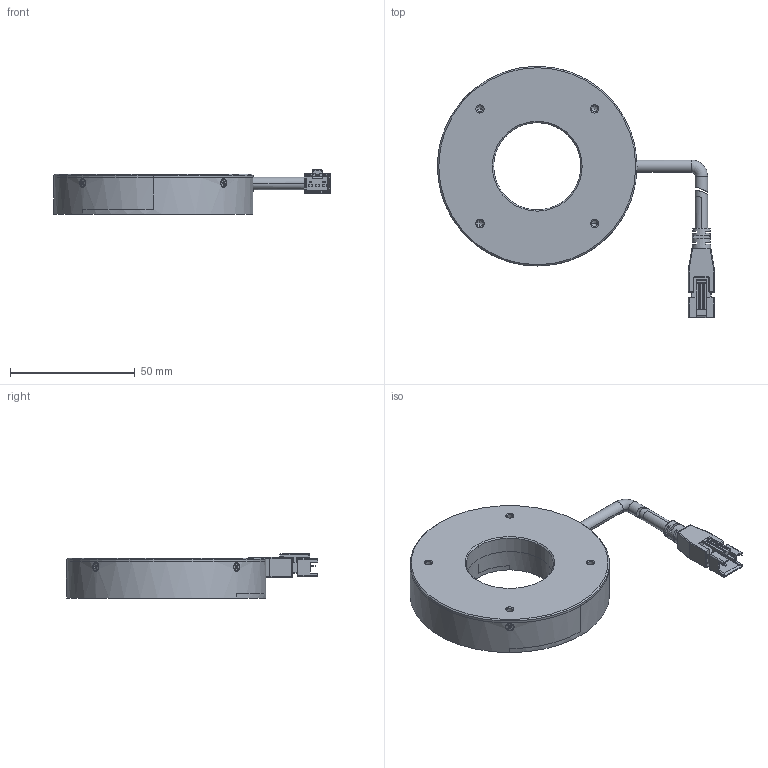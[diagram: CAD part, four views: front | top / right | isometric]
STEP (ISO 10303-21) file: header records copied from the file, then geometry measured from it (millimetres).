
FILE_DESCRIPTION((''),'2;1');
FILE_NAME('MV-LRDS-80-90-X_ASM','2023-09-15T12:01:02',('qiaoxuan5'),(''),'CREO PARAMETRIC BY PTC INC, 2020044','CREO PARAMETRIC BY PTC INC, 2020044','');
FILE_SCHEMA(('CONFIG_CONTROL_DESIGN','SHAPE_APPEARANCE_LAYERS_GROUPS'));
Length unit declared in the file: millimetre
Products named in the file (1): MV-LRDS-80-90-X_ASM
Bounding box: 111.05 x 100.66 x 17.7 mm (x, y, z)
Volume: 45287.4 mm3; surface area: 27716.4 mm2
Topology: 2 solids, 7 shells, 545 faces, 1388 edges, 868 vertices
Faces by surface type: plane 289, cylinder 162, cone 66, torus 10, sphere 8, bspline 8, extrusion 2
Entity records: 18900 total; most frequent: CARTESIAN_POINT 4766, DIRECTION 2753, ORIENTED_EDGE 2723, EDGE_CURVE 1364, AXIS2_PLACEMENT_3D 957, VERTEX_POINT 868, VECTOR 839, LINE 837
